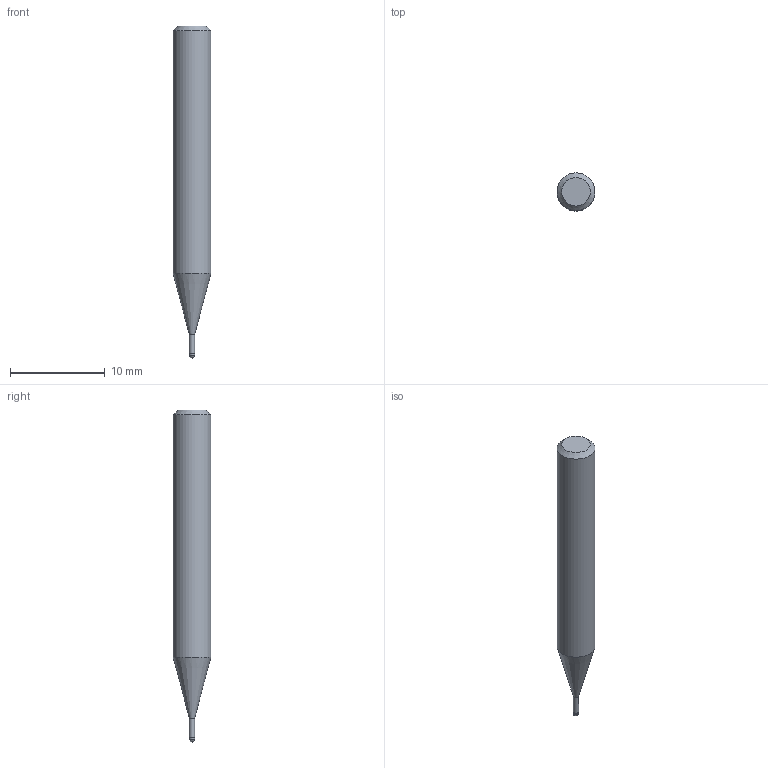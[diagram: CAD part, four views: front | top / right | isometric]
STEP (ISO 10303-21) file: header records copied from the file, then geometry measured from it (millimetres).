
FILE_DESCRIPTION((''),'2;1');
FILE_NAME('C:\Users\nsx150\AppData\Local\Temp\Mastercam 2021\QT8KEW0Y7J\TEMP.step','2021-04-23T11:20:50',(''),(''),'STEP Write','Mastercam 2021 ... CNC Software, Inc.','');
FILE_SCHEMA(('AUTOMOTIVE_DESIGN'));
Length unit declared in the file: millimetre
Products named in the file (1): None
Bounding box: 4 x 4 x 35 mm (x, y, z)
Volume: 358.1 mm3; surface area: 388.9 mm2
Topology: 2 solids, 2 shells, 9 faces, 14 edges, 8 vertices
Faces by surface type: plane 3, cylinder 3, cone 2, sphere 1
Full cylindrical faces by diameter (mm): 0.56 x1, 0.6 x1, 4 x1
Entity records: 211 total; most frequent: DIRECTION 36, CARTESIAN_POINT 25, AXIS2_PLACEMENT_3D 18, ORIENTED_EDGE 14, EDGE_LOOP 14, STYLED_ITEM 12, ADVANCED_FACE 9, FACE_BOUND 8
